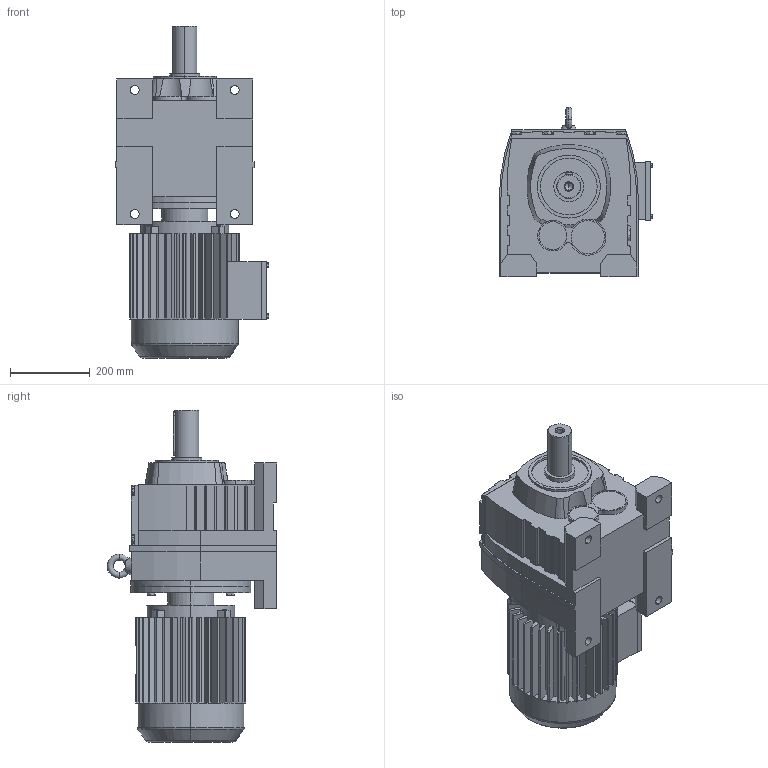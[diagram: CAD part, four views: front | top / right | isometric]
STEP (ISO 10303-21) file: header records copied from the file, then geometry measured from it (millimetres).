
FILE_DESCRIPTION(('Open CASCADE Model'),'2;1');
FILE_NAME('Open CASCADE Shape Model','2021-07-10T09:56:39',('Author'),( 'Open CASCADE'),'Open CASCADE STEP processor 6.3','Open CASCADE 6.3' ,'Unknown');
FILE_SCHEMA(('AUTOMOTIVE_DESIGN_CC2 { 1 2 10303 214 -1 1 5 4 }'));
Length unit declared in the file: millimetre
Products named in the file (3): 1_R97-Y132S; R37‵167_97.step; 萇儂_300_Y132S.step
Assembly tree (2 placements, depth 2):
  1_R97-Y132S
    R37‵167_97.step
    萇儂_300_Y132S.step
Bounding box: 384 x 424 x 830 mm (x, y, z)
Volume: 51158962.7 mm3; surface area: 1697458 mm2
Topology: 2 solids, 2 shells, 744 faces, 1979 edges, 1280 vertices
Faces by surface type: plane 529, cylinder 185, cone 20, torus 10
Entity records: 51693 total; most frequent: CARTESIAN_POINT 13921, DIRECTION 6590, ORIENTED_EDGE 3954, PCURVE 3954, DEFINITIONAL_REPRESENTATION 3954, LINE 3684, VECTOR 3684, EDGE_CURVE 1977
